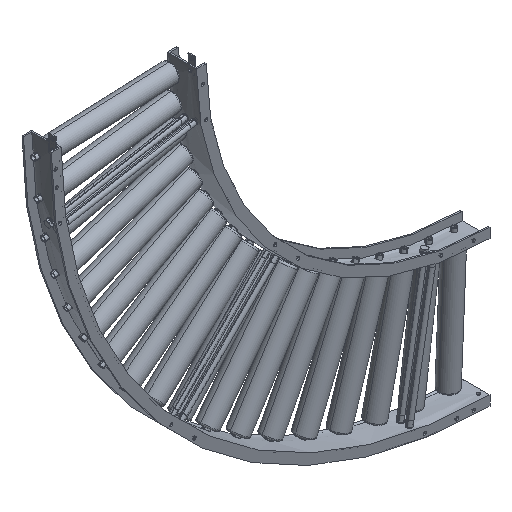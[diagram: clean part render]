
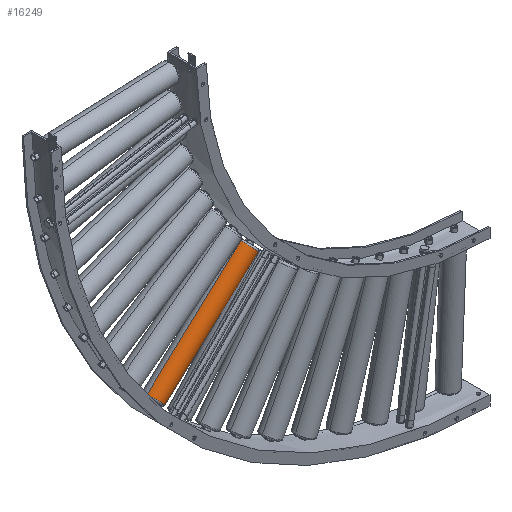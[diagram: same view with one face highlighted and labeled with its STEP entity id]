
A CAD part, isometric view. The second image highlights one B-rep face of the part: STEP entity #16249.
In plain terms, the highlighted cylindrical face has radius 28.6 mm (diameter 57.2 mm), a partial arc.
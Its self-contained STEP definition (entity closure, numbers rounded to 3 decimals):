
#942 = CARTESIAN_POINT ( 'NONE',  ( -63.511, 46.699, -142.012 ) ) ;
#1640 = DIRECTION ( 'NONE',  ( 0.676, 0., -0.737 ) ) ;
#2049 = VERTEX_POINT ( 'NONE', #30562 ) ;
#2204 = ORIENTED_EDGE ( 'NONE', *, *, #6734, .T. ) ;
#4505 = ORIENTED_EDGE ( 'NONE', *, *, #21911, .F. ) ;
#5410 = CIRCLE ( 'NONE', #20158, 28.6 ) ;
#5500 = DIRECTION ( 'NONE',  ( -0.676, 0., 0.737 ) ) ;
#5585 = ORIENTED_EDGE ( 'NONE', *, *, #18149, .T. ) ;
#6734 = EDGE_CURVE ( 'NONE', #33624, #2049, #5410, .T. ) ;
#7066 = EDGE_CURVE ( 'NONE', #2049, #25078, #9412, .T. ) ;
#9412 = LINE ( 'NONE', #942, #21972 ) ;
#11289 = LINE ( 'NONE', #22593, #30375 ) ;
#13017 = AXIS2_PLACEMENT_3D ( 'NONE', #32919, #36243, #1640 ) ;
#13457 = DIRECTION ( 'NONE',  ( -0.737, 0., -0.676 ) ) ;
#16249 = ADVANCED_FACE ( 'NONE', ( #27538 ), #30504, .T. ) ;
#16383 = DIRECTION ( 'NONE',  ( 0.676, 0., -0.737 ) ) ;
#17753 = DIRECTION ( 'NONE',  ( -0.737, 0., -0.676 ) ) ;
#18149 = EDGE_CURVE ( 'NONE', #25078, #19891, #28998, .T. ) ;
#19338 = CARTESIAN_POINT ( 'NONE',  ( -47.876, 46.699, -166.476 ) ) ;
#19891 = VERTEX_POINT ( 'NONE', #26658 ) ;
#20158 = AXIS2_PLACEMENT_3D ( 'NONE', #19338, #22310, #16383 ) ;
#21267 = AXIS2_PLACEMENT_3D ( 'NONE', #36604, #13457, #5500 ) ;
#21893 = ORIENTED_EDGE ( 'NONE', *, *, #7066, .T. ) ;
#21911 = EDGE_CURVE ( 'NONE', #33624, #19891, #11289, .T. ) ;
#21972 = VECTOR ( 'NONE', #23504, 1000. ) ;
#22310 = DIRECTION ( 'NONE',  ( -0.737, 0., -0.676 ) ) ;
#22593 = CARTESIAN_POINT ( 'NONE',  ( -24.867, 46.699, -184.184 ) ) ;
#23504 = DIRECTION ( 'NONE',  ( -0.737, 0., -0.676 ) ) ;
#23816 = CARTESIAN_POINT ( 'NONE',  ( -354.736, 46.699, -408.87 ) ) ;
#25078 = VERTEX_POINT ( 'NONE', #23816 ) ;
#25621 = CARTESIAN_POINT ( 'NONE',  ( -28.554, 46.699, -187.562 ) ) ;
#26658 = CARTESIAN_POINT ( 'NONE',  ( -316.092, 46.699, -451.042 ) ) ;
#27538 = FACE_OUTER_BOUND ( 'NONE', #28012, .T. ) ;
#28012 = EDGE_LOOP ( 'NONE', ( #4505, #2204, #21893, #5585 ) ) ;
#28998 = CIRCLE ( 'NONE', #13017, 28.6 ) ;
#30375 = VECTOR ( 'NONE', #17753, 1000. ) ;
#30504 = CYLINDRICAL_SURFACE ( 'NONE', #21267, 28.6 ) ;
#30562 = CARTESIAN_POINT ( 'NONE',  ( -67.197, 46.699, -145.39 ) ) ;
#32919 = CARTESIAN_POINT ( 'NONE',  ( -335.414, 46.699, -429.956 ) ) ;
#33624 = VERTEX_POINT ( 'NONE', #25621 ) ;
#36243 = DIRECTION ( 'NONE',  ( 0.737, 0., 0.676 ) ) ;
#36604 = CARTESIAN_POINT ( 'NONE',  ( -44.189, 46.699, -163.098 ) ) ;
